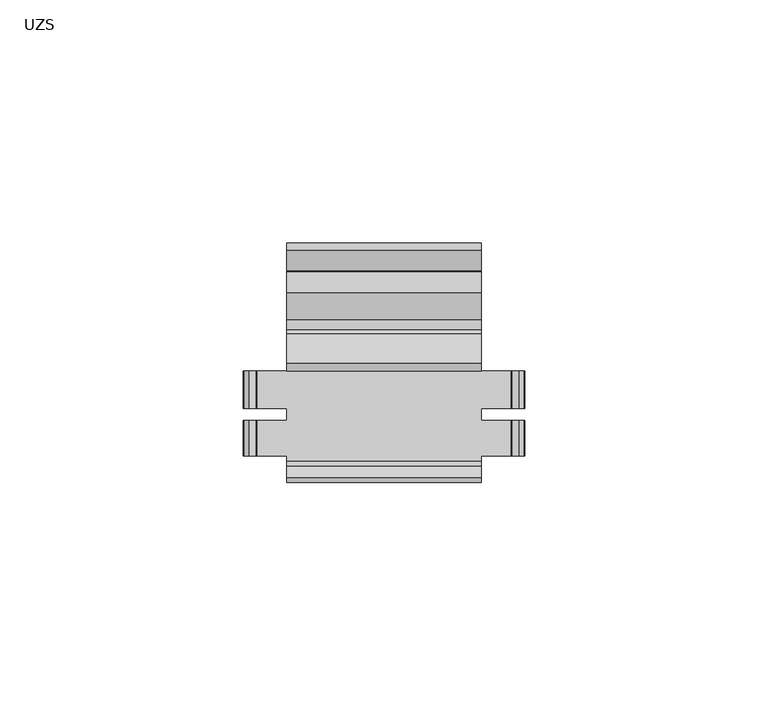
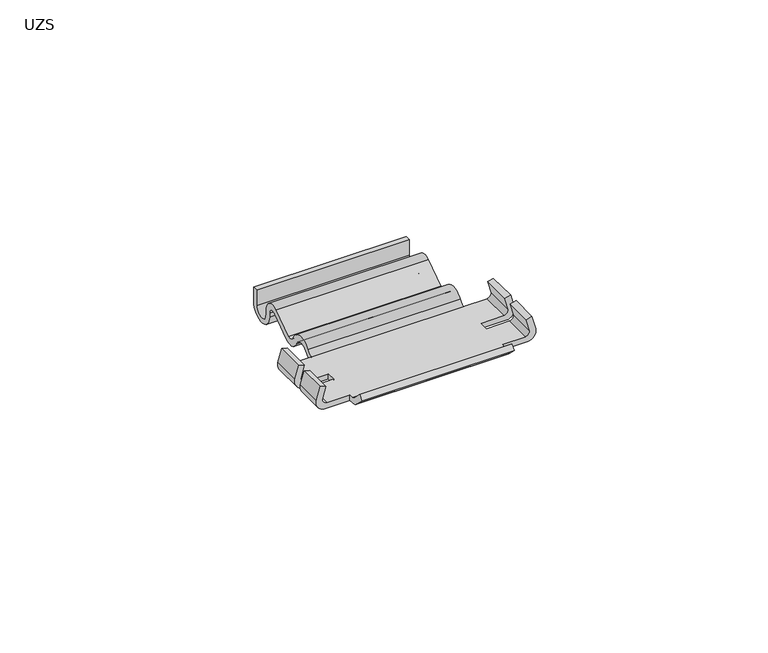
"""IFC4 building model written with IfcOpenShell, lengths in millimetres: cable carrier fitting geometry, BAKS_SUB_Mesh connector bottom : UZS."""

from ifc_helpers import new_model, si_unit, frame, origin, place, context, project, spatial, polyline, circle_curve, source, transform, mapped, element, save
from ifc_brep_helpers import plane_surface, cylinder_surface, revolved_surface, advanced_brep


def uzs_928a7669(model_context):
    return source(origin(), model_context, "Body", "AdvancedBrep", [
        advanced_brep(
        [(20.0, 26.1903688, -0.5), (20.0, 26.1903688, 3.5), (20.0, 24.7838373, 3.5), (20.0, 24.7838373, -0.7658087), (20.0, 20.5659478, -0.7658087), (20.0, 20.3947418, 1.1910843), (20.0, 16.1190086, 3.1848914), (20.0, 10.5114403, -0.7415702), (20.0, 8.4739929, 0.0), (20.0, 7.7007133, 1.1043578), (20.0, 1.5771864, 1.1043578), (20.0, 0.0, 0.0), (20.0, 0.0, -1.5), (20.0, 1.5, -1.0842907), (20.0, 3.0397387, 0.455448), (20.0, 6.8125457, -0.5554726), (20.0, 11.3752799, -1.9504404), (20.0, 16.6986716, 1.7770386), (20.0, 18.9903688, 0.7084026), (20.0, 18.9903688, -0.5), (20.0, -18.5, 0.0), (20.0, -19.5606602, 0.4393398), (20.0, -21.9249812, 2.8036608), (20.0, -22.9856414, 1.7430007), (20.0, -20.6591422, -0.5834985), (20.0, -18.5, -1.5), (20.0, -17.5, -1.5), (20.0, -17.5, 0.0), (20.0, -10.25, 0.0), (20.0, -10.25, -1.5), (20.0, -7.75, -1.5), (20.0, -7.75, 0.0), (-20.0, 26.1903688, -0.5), (-20.0, 18.9903688, -0.5), (-20.0, 18.9903688, 0.7084026), (-20.0, 16.6986716, 1.7770386), (-20.0, 11.3752799, -1.9504404), (-20.0, 6.8125457, -0.5554726), (-20.0, 3.0397387, 0.455448), (-20.0, 1.5, -1.0842907), (-20.0, -0.0514483, -1.5), (-20.0, 0.0, 0.0), (-20.0, 1.5771864, 1.1043578), (-20.0, 7.7007133, 1.1043578), (-20.0, 8.4739929, 0.0), (-20.0, 10.5114403, -0.7415702), (-20.0, 16.1190086, 3.1848914), (-20.0, 20.3947418, 1.1910843), (-20.0, 20.5659478, -0.7658087), (-20.0, 24.7838373, -0.7658087), (-20.0, 24.7838373, 3.5), (-20.0, 26.1903688, 3.5), (-20.0, -18.5, -1.5), (-20.0, -20.6591422, -0.5834985), (-20.0, -22.9856414, 1.7430007), (-20.0, -21.9249812, 2.8036608), (-20.0, -19.5606602, 0.4393398), (-20.0, -18.5, 0.0), (-20.0, -17.5, 0.0), (-20.0, -17.5, -1.5), (-20.0, -7.75, 0.0), (-20.0, -7.75, -1.5), (-20.0, -10.25, -1.5), (-20.0, -10.25, 0.0), (-25.9820894, 0.0, 0.0), (-25.9820894, -7.75, 0.0), (-25.9820894, -10.25, 0.0), (-25.9820894, -17.5, 0.0), (25.9820894, -17.5, 0.0), (25.9820894, -10.25, 0.0), (25.9820894, -7.75, 0.0), (25.9820894, 0.0, 0.0), (-26.7264706, -17.5, -1.5), (-26.7264706, -10.25, -1.5), (-26.7264706, -7.75, -1.5), (-26.7264706, 0.0, -1.5), (26.7264706, 0.0, -1.5), (26.7264706, -7.75, -1.5), (26.7264706, -10.25, -1.5), (26.7264706, -17.5, -1.5), (28.7783388, -17.5, 1.4303715), (27.8072475, -17.5, 5.0545335), (26.3155563, -17.5, 4.654836), (27.2287691, -17.5, 1.2466797), (27.2287691, -10.25, 1.2466797), (26.3155563, -10.25, 4.654836), (27.8072475, -10.25, 5.0545335), (28.7783388, -10.25, 1.4303715), (28.7783388, -7.75, 1.4303715), (27.8072475, -7.75, 5.0545335), (26.3155563, -7.75, 4.654836), (27.2287691, -7.75, 1.2466797), (27.2287691, 0.0, 1.2466797), (26.3155563, 0.0, 4.654836), (27.8072475, 0.0, 5.0545335), (28.7783388, 0.0, 1.4303715), (-27.2287691, -7.75, 1.2466797), (-26.3155563, -7.75, 4.654836), (-27.8072475, -7.75, 5.0545335), (-28.7783388, -7.75, 1.4303715), (-28.7783388, 0.0, 1.4303715), (-27.8072475, 0.0, 5.0545335), (-26.3155563, 0.0, 4.654836), (-27.2287691, 0.0, 1.2466797), (-27.2287691, -17.5, 1.2466797), (-26.3155563, -17.5, 4.654836), (-27.8072475, -17.5, 5.0545335), (-28.7783388, -17.5, 1.4303715), (-28.7783388, -10.25, 1.4303715), (-27.8072475, -10.25, 5.0545335), (-26.3155563, -10.25, 4.654836), (-27.2287691, -10.25, 1.2466797)],
        [
            (0, 1),
            (1, 2),
            (2, 3),
            (3, 4, circle_curve(frame((20.0, 22.6748926, -0.7658087), z_axis=(-1.0, 0.0, 0.0), x_axis=(0.0, -1.0, 0.0)), 2.1089448)),
            (4, 5),
            (5, 6, circle_curve(frame((20.0, 17.6813127, 0.95369), z_axis=(1.0, 0.0, 0.0), x_axis=(0.0, -1.0, 0.0)), 2.723794)),
            (6, 7),
            (7, 8, circle_curve(frame((20.0, 10.0222526, 1.0841031), z_axis=(-1.0, 0.0, 0.0), x_axis=(0.0, -1.0, 0.0)), 1.8900761)),
            (8, 9),
            (9, 10, circle_curve(frame((20.0, 4.6389498, -1.0752798), z_axis=(1.0, 0.0, 0.0), x_axis=(0.0, -1.0, 0.0)), 3.7583528)),
            (10, 11, circle_curve(frame((20.0, 0.0, 1.6784067), z_axis=(-1.0, 0.0, 0.0), x_axis=(0.0, -1.0, 0.0)), 1.6784067)),
            (11, 12),
            (12, 13, circle_curve(frame((20.0, 0.364261, 0.0514483), z_axis=(1.0, 0.0, 0.0), x_axis=(0.0, -1.0, 0.0)), 1.6061775)),
            (13, 14),
            (14, 15, circle_curve(frame((20.0, 4.5589038, -1.4205647), z_axis=(-1.0, 0.0, 0.0), x_axis=(0.0, -1.0, 0.0)), 2.4139773)),
            (15, 16, circle_curve(frame((20.0, 9.6388469, 0.5294428), z_axis=(1.0, 0.0, 0.0), x_axis=(0.0, -1.0, 0.0)), 3.0273784)),
            (16, 17),
            (17, 18, circle_curve(frame((20.0, 17.5953636, 0.7084026), z_axis=(-1.0, 0.0, 0.0), x_axis=(0.0, -1.0, 0.0)), 1.3950052)),
            (18, 19),
            (19, 0, circle_curve(frame((20.0, 22.5903688, -0.5), z_axis=(1.0, 0.0, 0.0), x_axis=(0.0, -1.0, 0.0)), 3.6)),
            (20, 21, circle_curve(frame((20.0, -18.5, 1.5), z_axis=(-1.0, 0.0, 0.0), x_axis=(0.0, -1.0, 0.0)), 1.5)),
            (21, 22),
            (22, 23),
            (23, 24),
            (24, 25, circle_curve(frame((20.0, -18.5, 1.5015608), z_axis=(1.0, 0.0, 0.0), x_axis=(0.0, -1.0, 0.0)), 3.0015608)),
            (25, 26),
            (26, 27),
            (27, 20),
            (28, 29),
            (29, 30),
            (30, 31),
            (31, 28),
            (32, 33, circle_curve(frame((-20.0, 22.5903688, -0.5), z_axis=(-1.0, 0.0, 0.0), x_axis=(0.0, -1.0, 0.0)), 3.6)),
            (33, 34),
            (34, 35, circle_curve(frame((-20.0, 17.5953636, 0.7084026), z_axis=(1.0, 0.0, 0.0), x_axis=(0.0, -1.0, 0.0)), 1.3950052)),
            (35, 36),
            (36, 37, circle_curve(frame((-20.0, 9.6388469, 0.5294428), z_axis=(-1.0, 0.0, 0.0), x_axis=(0.0, -1.0, 0.0)), 3.0273784)),
            (37, 38, circle_curve(frame((-20.0, 4.5589038, -1.4205647), z_axis=(1.0, 0.0, 0.0), x_axis=(0.0, -1.0, 0.0)), 2.4139773)),
            (38, 39),
            (39, 40, circle_curve(frame((-20.0, 0.364261, 0.0514483), z_axis=(-1.0, 0.0, 0.0), x_axis=(0.0, -1.0, 0.0)), 1.6061775)),
            (40, 41),
            (41, 42, circle_curve(frame((-20.0, 0.0, 1.6784067), z_axis=(1.0, 0.0, 0.0), x_axis=(0.0, -1.0, 0.0)), 1.6784067)),
            (42, 43, circle_curve(frame((-20.0, 4.6389498, -1.0752798), z_axis=(-1.0, 0.0, 0.0), x_axis=(0.0, -1.0, 0.0)), 3.7583528)),
            (43, 44),
            (44, 45, circle_curve(frame((-20.0, 10.0222526, 1.0841031), z_axis=(1.0, 0.0, 0.0), x_axis=(0.0, -1.0, 0.0)), 1.8900761)),
            (45, 46),
            (46, 47, circle_curve(frame((-20.0, 17.6813127, 0.95369), z_axis=(-1.0, 0.0, 0.0), x_axis=(0.0, -1.0, 0.0)), 2.723794)),
            (47, 48),
            (48, 49, circle_curve(frame((-20.0, 22.6748926, -0.7658087), z_axis=(1.0, 0.0, 0.0), x_axis=(0.0, -1.0, 0.0)), 2.1089448)),
            (49, 50),
            (50, 51),
            (51, 32),
            (52, 53, circle_curve(frame((-20.0, -18.5, 1.5015608), z_axis=(-1.0, 0.0, 0.0), x_axis=(0.0, -1.0, 0.0)), 3.0015608)),
            (53, 54),
            (54, 55),
            (55, 56),
            (56, 57, circle_curve(frame((-20.0, -18.5, 1.5), z_axis=(1.0, 0.0, 0.0), x_axis=(0.0, -1.0, 0.0)), 1.5)),
            (57, 58),
            (58, 59),
            (59, 52),
            (60, 61),
            (61, 62),
            (62, 63),
            (63, 60),
            (0, 32),
            (51, 1),
            (50, 2),
            (49, 3),
            (48, 4),
            (47, 5),
            (46, 6),
            (45, 7),
            (44, 8),
            (43, 9),
            (42, 10),
            (41, 11),
            (41, 64),
            (64, 65),
            (65, 60),
            (63, 66),
            (66, 67),
            (67, 58),
            (57, 20),
            (27, 68),
            (68, 69),
            (69, 28),
            (31, 70),
            (70, 71),
            (71, 11),
            (56, 21),
            (55, 22),
            (54, 23),
            (53, 24),
            (52, 25),
            (59, 72),
            (72, 73),
            (73, 62),
            (61, 74),
            (74, 75),
            (75, 40),
            (40, 12),
            (12, 76),
            (76, 77),
            (77, 30),
            (29, 78),
            (78, 79),
            (79, 26),
            (39, 13),
            (38, 14),
            (37, 15),
            (36, 16),
            (35, 17),
            (34, 18),
            (33, 19),
            (79, 80, circle_curve(frame((26.5229679, -17.5, 0.8260467), z_axis=(0.0, -1.0, 0.0), x_axis=(1.0, 0.0, 0.0)), 2.3349318)),
            (80, 81),
            (81, 82),
            (82, 83),
            (83, 68, circle_curve(frame((25.9820894, -17.5, 1.2466797), z_axis=(0.0, 1.0, 0.0), x_axis=(1.0, 0.0, 0.0)), 1.2466797)),
            (69, 84, circle_curve(frame((25.9820894, -10.25, 1.2466797), z_axis=(0.0, -1.0, 0.0), x_axis=(1.0, 0.0, 0.0)), 1.2466797)),
            (84, 85),
            (85, 86),
            (86, 87),
            (87, 78, circle_curve(frame((26.5229679, -10.25, 0.8260467), z_axis=(0.0, 1.0, 0.0), x_axis=(1.0, 0.0, 0.0)), 2.3349318)),
            (87, 80),
            (86, 81),
            (85, 82),
            (84, 83),
            (77, 88, circle_curve(frame((26.5229679, -7.75, 0.8260467), z_axis=(0.0, -1.0, 0.0), x_axis=(1.0, 0.0, 0.0)), 2.3349318)),
            (88, 89),
            (89, 90),
            (90, 91),
            (91, 70, circle_curve(frame((25.9820894, -7.75, 1.2466797), z_axis=(0.0, 1.0, 0.0), x_axis=(1.0, 0.0, 0.0)), 1.2466797)),
            (71, 92, circle_curve(frame((25.9820894, 0.0, 1.2466797), z_axis=(0.0, -1.0, 0.0), x_axis=(1.0, 0.0, 0.0)), 1.2466797)),
            (92, 93),
            (93, 94),
            (94, 95),
            (95, 76, circle_curve(frame((26.5229679, 0.0, 0.8260467), z_axis=(0.0, 1.0, 0.0), x_axis=(1.0, 0.0, 0.0)), 2.3349318)),
            (95, 88),
            (94, 89),
            (93, 90),
            (92, 91),
            (65, 96, circle_curve(frame((-25.9820894, -7.75, 1.2466797), z_axis=(0.0, 1.0, 0.0), x_axis=(-1.0, 0.0, 0.0)), 1.2466797)),
            (96, 97),
            (97, 98),
            (98, 99),
            (99, 74, circle_curve(frame((-26.5229679, -7.75, 0.8260467), z_axis=(0.0, -1.0, 0.0), x_axis=(-1.0, 0.0, 0.0)), 2.3349318)),
            (75, 100, circle_curve(frame((-26.5229679, 0.0, 0.8260467), z_axis=(0.0, 1.0, 0.0), x_axis=(-1.0, 0.0, 0.0)), 2.3349318)),
            (100, 101),
            (101, 102),
            (102, 103),
            (103, 64, circle_curve(frame((-25.9820894, 0.0, 1.2466797), z_axis=(0.0, -1.0, 0.0), x_axis=(-1.0, 0.0, 0.0)), 1.2466797)),
            (99, 100),
            (98, 101),
            (97, 102),
            (96, 103),
            (67, 104, circle_curve(frame((-25.9820894, -17.5, 1.2466797), z_axis=(0.0, 1.0, 0.0), x_axis=(-1.0, 0.0, 0.0)), 1.2466797)),
            (104, 105),
            (105, 106),
            (106, 107),
            (107, 72, circle_curve(frame((-26.5229679, -17.5, 0.8260467), z_axis=(0.0, -1.0, 0.0), x_axis=(-1.0, 0.0, 0.0)), 2.3349318)),
            (73, 108, circle_curve(frame((-26.5229679, -10.25, 0.8260467), z_axis=(0.0, 1.0, 0.0), x_axis=(-1.0, 0.0, 0.0)), 2.3349318)),
            (108, 109),
            (109, 110),
            (110, 111),
            (111, 66, circle_curve(frame((-25.9820894, -10.25, 1.2466797), z_axis=(0.0, -1.0, 0.0), x_axis=(-1.0, 0.0, 0.0)), 1.2466797)),
            (107, 108),
            (106, 109),
            (105, 110),
            (104, 111),
        ],
        [
            plane_surface(frame((20.0, 26.1903688, 3.5), z_axis=(1.0, 0.0, 0.0), x_axis=(0.0, 0.0, 1.0))),
            plane_surface(frame((-20.0, 26.1903688, 3.5), z_axis=(-1.0, 0.0, 0.0), x_axis=(0.0, 0.0, -1.0))),
            plane_surface(frame((20.0, 26.1903688, -0.5), z_axis=(0.0, 1.0, 0.0), x_axis=(-1.0, 0.0, 0.0))),
            plane_surface(frame((20.0, 26.1903688, 3.5), z_axis=(0.0, 0.0, 1.0), x_axis=(-1.0, 0.0, 0.0))),
            plane_surface(frame((20.0, 24.7838373, 3.5), z_axis=(0.0, -1.0, 0.0), x_axis=(-1.0, 0.0, 0.0))),
            revolved_surface(polyline([(-20.0, 20.5659478, -0.7658087), (20.0, 20.5659478, -0.7658087)]), (-20.0, 22.6748926, -0.7658087), (-1.0, 0.0, 0.0)),
            plane_surface(frame((20.0, 20.5659478, -0.7658087), z_axis=(0.0, 0.9961946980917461, 0.08715574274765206), x_axis=(-1.0, 0.0, 0.0))),
            cylinder_surface(frame((-20.0, 17.6813127, 0.95369), z_axis=(1.0, 0.0, 0.0), x_axis=(0.0, -1.0, 0.0)), 2.723794),
            plane_surface(frame((20.0, 16.1190086, 3.1848914), z_axis=(0.0, -0.5735764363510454, 0.8191520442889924), x_axis=(-1.0, 0.0, 0.0))),
            revolved_surface(polyline([(-20.0, 8.1321765, 1.0841031), (20.0, 8.1321765, 1.0841031)]), (-20.0, 10.0222526, 1.0841031), (-1.0, 0.0, 0.0)),
            plane_surface(frame((20.0, 8.4739929, 0.0), z_axis=(0.0, 0.8191520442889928, 0.5735764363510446), x_axis=(-1.0, 0.0, 0.0))),
            cylinder_surface(frame((-20.0, 4.6389498, -1.0752798), z_axis=(1.0, 0.0, 0.0), x_axis=(0.0, -1.0, 0.0)), 3.7583528),
            revolved_surface(polyline([(-20.0, -1.6784067, 1.6784067), (20.0, -1.6784067, 1.6784067)]), (-20.0, 0.0, 1.6784067), (-1.0, 0.0, 0.0)),
            plane_surface(frame((20.0, 0.0, 0.0), z_axis=(0.0, 0.0, 1.0), x_axis=(-1.0, 0.0, 0.0))),
            revolved_surface(polyline([(-20.0, -20.0, 1.5), (20.0, -20.0, 1.5)]), (-20.0, -18.5, 1.5), (-1.0, 0.0, 0.0)),
            plane_surface(frame((20.0, -19.5606602, 0.4393398), z_axis=(0.0, 0.7071067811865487, 0.7071067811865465), x_axis=(-1.0, 0.0, 0.0))),
            plane_surface(frame((20.0, -21.9249812, 2.8036608), z_axis=(0.0, -0.7071067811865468, 0.7071067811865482), x_axis=(-1.0, 0.0, 0.0))),
            plane_surface(frame((20.0, -22.9856414, 1.7430007), z_axis=(0.0, -0.707106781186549, -0.707106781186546), x_axis=(-1.0, 0.0, 0.0))),
            cylinder_surface(frame((-20.0, -18.5, 1.5015608), z_axis=(1.0, 0.0, 0.0), x_axis=(0.0, -1.0, 0.0)), 3.0015608),
            plane_surface(frame((20.0, -18.5, -1.5), z_axis=(0.0, 0.0, -1.0), x_axis=(-1.0, 0.0, 0.0))),
            cylinder_surface(frame((-20.0, 0.364261, 0.0514483), z_axis=(1.0, 0.0, 0.0), x_axis=(0.0, -1.0, 0.0)), 1.6061775),
            plane_surface(frame((20.0, 1.5, -1.0842907), z_axis=(0.0, 0.7071067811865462, -0.7071067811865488), x_axis=(-1.0, 0.0, 0.0))),
            revolved_surface(polyline([(-20.0, 2.1449265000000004, -1.4205647), (20.0, 2.1449265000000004, -1.4205647)]), (-20.0, 4.5589038, -1.4205647), (-1.0, 0.0, 0.0)),
            cylinder_surface(frame((-20.0, 9.6388469, 0.5294428), z_axis=(1.0, 0.0, 0.0), x_axis=(0.0, -1.0, 0.0)), 3.0273784),
            plane_surface(frame((20.0, 11.3752799, -1.9504404), z_axis=(0.0, 0.5735764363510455, -0.8191520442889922), x_axis=(-1.0, 0.0, 0.0))),
            revolved_surface(polyline([(-20.0, 16.2003584, 0.7084026), (20.0, 16.2003584, 0.7084026)]), (-20.0, 17.5953636, 0.7084026), (-1.0, 0.0, 0.0)),
            plane_surface(frame((20.0, 18.9903688, 0.7084026), z_axis=(0.0, -1.0, 0.0), x_axis=(-1.0, 0.0, 0.0))),
            cylinder_surface(frame((-20.0, 22.5903688, -0.5), z_axis=(1.0, 0.0, 0.0), x_axis=(0.0, -1.0, 0.0)), 3.6),
            plane_surface(frame((28.8578997, -17.5, 0.8260467), z_axis=(0.0, -1.0, 0.0), x_axis=(0.0, 0.0, 1.0))),
            plane_surface(frame((28.8578997, -10.25, 0.8260467), z_axis=(0.0, 1.0, 0.0), x_axis=(0.0, 0.0, -1.0))),
            cylinder_surface(frame((26.5229679, -10.25, 0.8260467), z_axis=(0.0, -1.0, 0.0), x_axis=(1.0, 0.0, 0.0)), 2.3349318),
            plane_surface(frame((28.7783388, -17.5, 1.4303715), z_axis=(0.9659258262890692, 0.0, 0.25881904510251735), x_axis=(0.0, 1.0, 0.0))),
            plane_surface(frame((27.8072475, -17.5, 5.0545335), z_axis=(-0.25881904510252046, 0.0, 0.9659258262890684), x_axis=(0.0, 1.0, 0.0))),
            plane_surface(frame((26.3155563, -17.5, 4.654836), z_axis=(-0.9659258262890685, 0.0, -0.2588190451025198), x_axis=(0.0, 1.0, 0.0))),
            revolved_surface(polyline([(27.2287691, -10.25, 1.2466797), (27.2287691, -17.5, 1.2466797)]), (25.9820894, -10.25, 1.2466797), (0.0, 1.0, 0.0)),
            plane_surface(frame((28.8578997, -7.75, 0.8260467), z_axis=(0.0, -1.0, 0.0), x_axis=(0.0, 0.0, 1.0))),
            plane_surface(frame((28.8578997, 0.0, 0.8260467), z_axis=(0.0, 1.0, 0.0), x_axis=(0.0, 0.0, -1.0))),
            cylinder_surface(frame((26.5229679, 0.0, 0.8260467), z_axis=(0.0, -1.0, 0.0), x_axis=(1.0, 0.0, 0.0)), 2.3349318),
            plane_surface(frame((28.7783388, -7.75, 1.4303715), z_axis=(0.9659258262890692, 0.0, 0.25881904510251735), x_axis=(0.0, 1.0, 0.0))),
            plane_surface(frame((27.8072475, -7.75, 5.0545335), z_axis=(-0.25881904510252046, 0.0, 0.9659258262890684), x_axis=(0.0, 1.0, 0.0))),
            plane_surface(frame((26.3155563, -7.75, 4.654836), z_axis=(-0.9659258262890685, 0.0, -0.2588190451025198), x_axis=(0.0, 1.0, 0.0))),
            revolved_surface(polyline([(27.2287691, 0.0, 1.2466797), (27.2287691, -7.75, 1.2466797)]), (25.9820894, 0.0, 1.2466797), (0.0, 1.0, 0.0)),
            plane_surface(frame((-20.0, -7.75, -1.5), z_axis=(0.0, -1.0, 0.0), x_axis=(1.0, 0.0, 0.0))),
            plane_surface(frame((-20.0, 0.0, -1.5), z_axis=(0.0, 1.0, 0.0), x_axis=(-1.0, 0.0, 0.0))),
            cylinder_surface(frame((-26.5229679, 0.0, 0.8260467), z_axis=(0.0, -1.0, 0.0), x_axis=(-1.0, 0.0, 0.0)), 2.3349318),
            plane_surface(frame((-27.8072475, -7.75, 5.0545335), z_axis=(-0.9659258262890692, 0.0, 0.25881904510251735), x_axis=(0.0, 1.0, 0.0))),
            plane_surface(frame((-26.3155563, -7.75, 4.654836), z_axis=(0.25881904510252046, 0.0, 0.9659258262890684), x_axis=(0.0, 1.0, 0.0))),
            plane_surface(frame((-27.2287691, -7.75, 1.2466797), z_axis=(0.9659258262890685, 0.0, -0.2588190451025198), x_axis=(0.0, 1.0, 0.0))),
            revolved_surface(polyline([(-27.2287691, 0.0, 1.2466797), (-27.2287691, -7.75, 1.2466797)]), (-25.9820894, 0.0, 1.2466797), (0.0, 1.0, 0.0)),
            plane_surface(frame((-20.0, -17.5, -1.5), z_axis=(0.0, -1.0, 0.0), x_axis=(1.0, 0.0, 0.0))),
            plane_surface(frame((-20.0, -10.25, -1.5), z_axis=(0.0, 1.0, 0.0), x_axis=(-1.0, 0.0, 0.0))),
            cylinder_surface(frame((-26.5229679, -10.25, 0.8260467), z_axis=(0.0, -1.0, 0.0), x_axis=(-1.0, 0.0, 0.0)), 2.3349318),
            plane_surface(frame((-27.8072475, -17.5, 5.0545335), z_axis=(-0.9659258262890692, 0.0, 0.25881904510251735), x_axis=(0.0, 1.0, 0.0))),
            plane_surface(frame((-26.3155563, -17.5, 4.654836), z_axis=(0.25881904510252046, 0.0, 0.9659258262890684), x_axis=(0.0, 1.0, 0.0))),
            plane_surface(frame((-27.2287691, -17.5, 1.2466797), z_axis=(0.9659258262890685, 0.0, -0.2588190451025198), x_axis=(0.0, 1.0, 0.0))),
            revolved_surface(polyline([(-27.2287691, -10.25, 1.2466797), (-27.2287691, -17.5, 1.2466797)]), (-25.9820894, -10.25, 1.2466797), (0.0, 1.0, 0.0)),
        ],
        [
            (0, [[1, 2, 3, 4, 5, 6, 7, 8, 9, 10, 11, 12, 13, 14, 15, 16, 17, 18, 19, 20]]),
            (0, [[21, 22, 23, 24, 25, 26, 27, 28]]),
            (0, [[29, 30, 31, 32]]),
            (1, [[33, 34, 35, 36, 37, 38, 39, 40, 41, 42, 43, 44, 45, 46, 47, 48, 49, 50, 51, 52]]),
            (1, [[53, 54, 55, 56, 57, 58, 59, 60]]),
            (1, [[61, 62, 63, 64]]),
            (2, [[-1, 65, -52, 66]]),
            (3, [[-2, -66, -51, 67]]),
            (4, [[-3, -67, -50, 68]]),
            (5, [[-4, -68, -49, 69]]),
            (6, [[-5, -69, -48, 70]]),
            (7, [[-6, -70, -47, 71]]),
            (8, [[-7, -71, -46, 72]]),
            (9, [[-8, -72, -45, 73]]),
            (10, [[-9, -73, -44, 74]]),
            (11, [[-10, -74, -43, 75]]),
            (12, [[-11, -75, -42, 76]]),
            (13, [[-76, 77, 78, 79, -64, 80, 81, 82, -58, 83, -28, 84, 85, 86, -32, 87, 88, 89]]),
            (14, [[-21, -83, -57, 90]]),
            (15, [[-22, -90, -56, 91]]),
            (16, [[-23, -91, -55, 92]]),
            (17, [[-24, -92, -54, 93]]),
            (18, [[-25, -93, -53, 94]]),
            (19, [[-94, -60, 95, 96, 97, -62, 98, 99, 100, 101, 102, 103, 104, -30, 105, 106, 107, -26]]),
            (20, [[-13, -101, -40, 108]]),
            (21, [[-14, -108, -39, 109]]),
            (22, [[-15, -109, -38, 110]]),
            (23, [[-16, -110, -37, 111]]),
            (24, [[-17, -111, -36, 112]]),
            (25, [[-18, -112, -35, 113]]),
            (26, [[-19, -113, -34, 114]]),
            (27, [[-20, -114, -33, -65]]),
            (28, [[115, 116, 117, 118, 119, -84, -27, -107]]),
            (29, [[-105, -29, -86, 120, 121, 122, 123, 124]]),
            (30, [[-115, -106, -124, 125]]),
            (31, [[-116, -125, -123, 126]]),
            (32, [[-117, -126, -122, 127]]),
            (33, [[-118, -127, -121, 128]]),
            (34, [[-119, -128, -120, -85]]),
            (35, [[129, 130, 131, 132, 133, -87, -31, -104]]),
            (36, [[-102, -12, -89, 134, 135, 136, 137, 138]]),
            (37, [[-129, -103, -138, 139]]),
            (38, [[-130, -139, -137, 140]]),
            (39, [[-131, -140, -136, 141]]),
            (40, [[-132, -141, -135, 142]]),
            (41, [[-133, -142, -134, -88]]),
            (42, [[-98, -61, -79, 143, 144, 145, 146, 147]]),
            (43, [[148, 149, 150, 151, 152, -77, -41, -100]]),
            (44, [[-147, 153, -148, -99]]),
            (45, [[-146, 154, -149, -153]]),
            (46, [[-145, 155, -150, -154]]),
            (47, [[-144, 156, -151, -155]]),
            (48, [[-143, -78, -152, -156]]),
            (49, [[-95, -59, -82, 157, 158, 159, 160, 161]]),
            (50, [[162, 163, 164, 165, 166, -80, -63, -97]]),
            (51, [[-161, 167, -162, -96]]),
            (52, [[-160, 168, -163, -167]]),
            (53, [[-159, 169, -164, -168]]),
            (54, [[-158, 170, -165, -169]]),
            (55, [[-157, -81, -166, -170]]),
        ],
    ),
    ])


if __name__ == "__main__":
    model = new_model("IFC4")
    model_context = context("Model", 3, world=origin())
    ifc_project = project(units=[si_unit("LENGTHUNIT", "METRE", prefix="MILLI")], contexts=[model_context])
    site = spatial("IfcSite", under=ifc_project)
    building = spatial("IfcBuilding", under=site)
    placement = place(None, origin())
    uzs_shape = uzs_928a7669(model_context)
    element("IfcCableCarrierFitting", 1, ObjectType="BAKS_SUB_Mesh connector bottom : UZS", at=placement, inside=building, context=model_context, shape_type="MappedRepresentation", body=[
        mapped(uzs_shape, transform((0.0, 0.0, 0.0), x_axis=(1.0, 0.0, 0.0), y_axis=(0.0, 1.0, 0.0), z_axis=(0.0, 0.0, 1.0))),
    ])
    save(model, "model.ifc")
